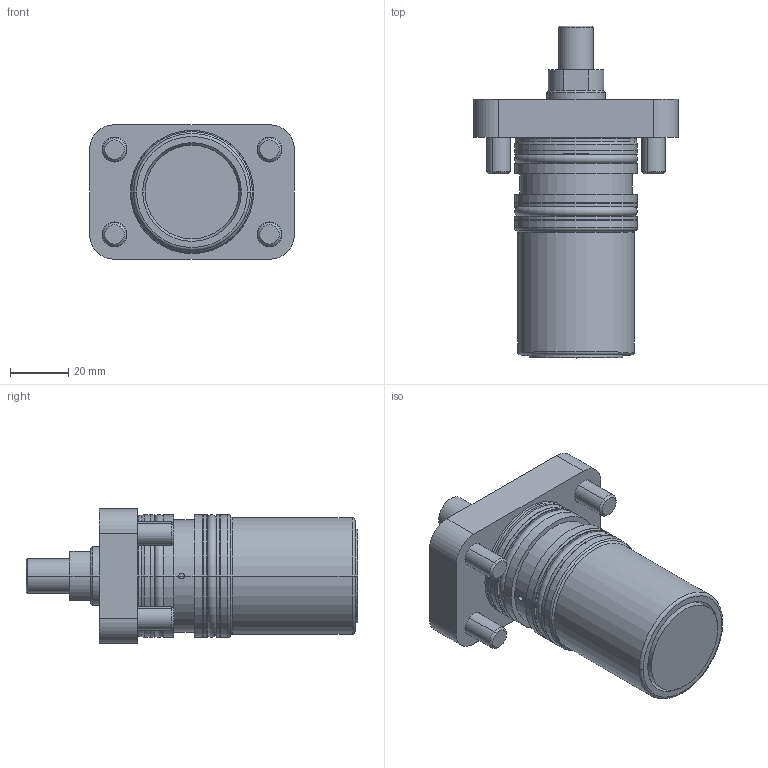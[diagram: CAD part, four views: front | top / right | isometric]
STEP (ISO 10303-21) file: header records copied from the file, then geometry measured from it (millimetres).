
FILE_DESCRIPTION (( 'STEP AP203' ), '1' );
FILE_NAME ('GERMA_Einbauzylinder_210-032-050-A.STEP', '2023-09-06T16:57:35', ( '' ), ( '' ), 'SwSTEP 2.0', 'SolidWorks 2016', '' );
FILE_SCHEMA (( 'CONFIG_CONTROL_DESIGN' ));
Length unit declared in the file: millimetre
Products named in the file (4): Gehaeuse 210-032_Gehaeuse 210-032-050; Kolben 60x-032_Kolben DU.32-Hub50-AG; GERMA_Einbauzylinder_210-032-050-A; DIN7984-M8x20
Assembly tree (6 placements, depth 2):
  GERMA_Einbauzylinder_210-032-050-A
    Gehaeuse 210-032_Gehaeuse 210-032-050
    Kolben 60x-032_Kolben DU.32-Hub50-AG
    DIN7984-M8x20  x4
Bounding box: 70 x 113.5 x 46 mm (x, y, z)
Volume: 118736.1 mm3; surface area: 41306.5 mm2
Topology: 6 solids, 6 shells, 370 faces, 883 edges, 553 vertices
Faces by surface type: plane 163, bspline 84, cylinder 73, cone 28, torus 22
Entity records: 12812 total; most frequent: CARTESIAN_POINT 5823, ORIENTED_EDGE 1414, DIRECTION 1198, EDGE_CURVE 707, VERTEX_POINT 454, AXIS2_PLACEMENT_3D 413, LINE 372, VECTOR 372
